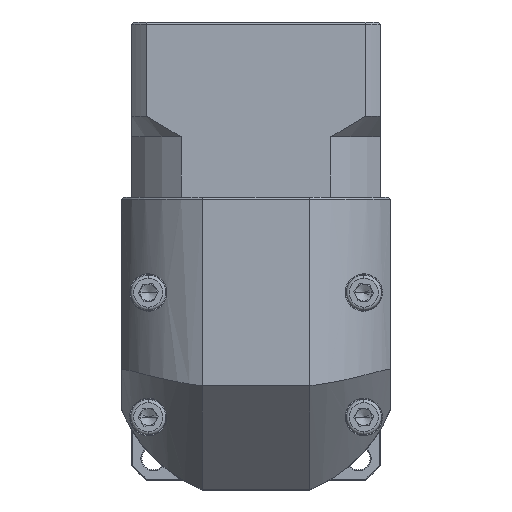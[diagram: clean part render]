
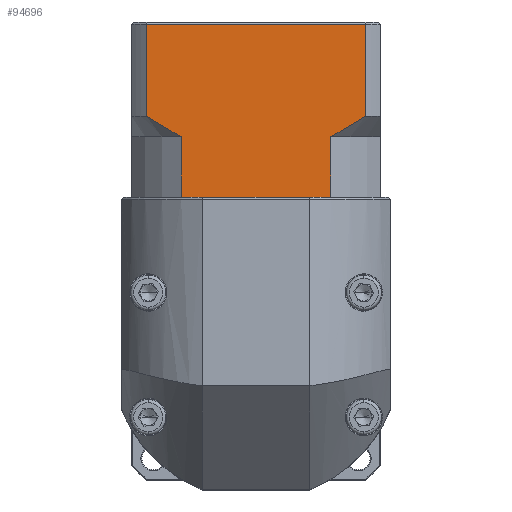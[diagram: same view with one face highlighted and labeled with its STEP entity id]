
A CAD part, top view. The second image highlights one B-rep face of the part: STEP entity #94696.
In plain terms, the highlighted planar face has unit normal (0, 0, 1).
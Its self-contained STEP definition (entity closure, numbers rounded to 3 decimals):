
#312 = DIRECTION ( 'NONE',  ( 1., 0., 0. ) ) ;
#1039 = CARTESIAN_POINT ( 'NONE',  ( -90.11, 39.774, 80.424 ) ) ;
#1424 = CARTESIAN_POINT ( 'NONE',  ( -98.54, 54.274, 80.424 ) ) ;
#3255 = VERTEX_POINT ( 'NONE', #77766 ) ;
#4260 = LINE ( 'NONE', #100759, #86115 ) ;
#6547 = VECTOR ( 'NONE', #8584, 1000. ) ;
#8584 = DIRECTION ( 'NONE',  ( 0., -1., 0. ) ) ;
#9825 = VECTOR ( 'NONE', #43654, 1000. ) ;
#10009 = ORIENTED_EDGE ( 'NONE', *, *, #15245, .T. ) ;
#10541 = FACE_OUTER_BOUND ( 'NONE', #26748, .T. ) ;
#13245 = VERTEX_POINT ( 'NONE', #42388 ) ;
#15245 = EDGE_CURVE ( 'NONE', #3255, #104483, #31555, .T. ) ;
#17055 = CARTESIAN_POINT ( 'NONE',  ( -89.119, 39.774, 80.424 ) ) ;
#17083 = CARTESIAN_POINT ( 'NONE',  ( -51.173, 55.825, 80.424 ) ) ;
#20121 = VERTEX_POINT ( 'NONE', #20446 ) ;
#20446 = CARTESIAN_POINT ( 'NONE',  ( -55.046, 39.774, 80.424 ) ) ;
#21475 = CARTESIAN_POINT ( 'NONE',  ( -97.18, 58.375, 80.424 ) ) ;
#21963 = LINE ( 'NONE', #105932, #56488 ) ;
#22116 = EDGE_CURVE ( 'NONE', #105021, #64540, #78569, .T. ) ;
#23376 = ORIENTED_EDGE ( 'NONE', *, *, #73919, .F. ) ;
#23925 = DIRECTION ( 'NONE',  ( 1., 0., 0. ) ) ;
#24281 = CARTESIAN_POINT ( 'NONE',  ( -102.082, 39.774, 80.424 ) ) ;
#24359 = CARTESIAN_POINT ( 'NONE',  ( -102.082, 39.774, 80.424 ) ) ;
#26748 = EDGE_LOOP ( 'NONE', ( #23376, #10009, #30204, #91913, #31964, #30813, #38494, #78426, #94059, #46248 ) ) ;
#28012 = CARTESIAN_POINT ( 'NONE',  ( -52.598, 55.025, 80.424 ) ) ;
#29648 = CARTESIAN_POINT ( 'NONE',  ( -91.562, 55.022, 80.424 ) ) ;
#30204 = ORIENTED_EDGE ( 'NONE', *, *, #46967, .F. ) ;
#30813 = ORIENTED_EDGE ( 'NONE', *, *, #22116, .T. ) ;
#31555 = LINE ( 'NONE', #100255, #9825 ) ;
#31964 = ORIENTED_EDGE ( 'NONE', *, *, #60363, .F. ) ;
#33458 = CARTESIAN_POINT ( 'NONE',  ( -48.367, 57.499, 80.424 ) ) ;
#36773 = LINE ( 'NONE', #24359, #104693 ) ;
#38380 = EDGE_CURVE ( 'NONE', #20121, #13245, #36773, .T. ) ;
#38494 = ORIENTED_EDGE ( 'NONE', *, *, #84819, .T. ) ;
#40001 = DIRECTION ( 'NONE',  ( 0., -1., 0. ) ) ;
#40776 = DIRECTION ( 'NONE',  ( 0., 1., 0. ) ) ;
#41734 = AXIS2_PLACEMENT_3D ( 'NONE', #81365, #55705, #104775 ) ;
#42388 = CARTESIAN_POINT ( 'NONE',  ( -54.055, 39.774, 80.424 ) ) ;
#43654 = DIRECTION ( 'NONE',  ( -1., 0., 0. ) ) ;
#43754 = LINE ( 'NONE', #1424, #60428 ) ;
#45903 = EDGE_CURVE ( 'NONE', #74908, #13245, #71818, .T. ) ;
#46248 = ORIENTED_EDGE ( 'NONE', *, *, #76578, .T. ) ;
#46967 = EDGE_CURVE ( 'NONE', #63742, #104483, #43754, .T. ) ;
#48387 = CARTESIAN_POINT ( 'NONE',  ( -54.055, 54.274, 80.424 ) ) ;
#49760 = CARTESIAN_POINT ( 'NONE',  ( -98.54, 59.274, 80.424 ) ) ;
#50270 = CARTESIAN_POINT ( 'NONE',  ( -46.988, 58.373, 80.424 ) ) ;
#55705 = DIRECTION ( 'NONE',  ( 0., 0., -1. ) ) ;
#56488 = VECTOR ( 'NONE', #74669, 1000. ) ;
#60363 = EDGE_CURVE ( 'NONE', #105021, #94860, #21963, .T. ) ;
#60428 = VECTOR ( 'NONE', #40776, 1000. ) ;
#60655 = DIRECTION ( 'NONE',  ( 1., 0., 0. ) ) ;
#63742 = VERTEX_POINT ( 'NONE', #49760 ) ;
#64540 = VERTEX_POINT ( 'NONE', #17055 ) ;
#71111 = CARTESIAN_POINT ( 'NONE',  ( -98.54, 59.274, 80.424 ) ) ;
#71818 = LINE ( 'NONE', #80068, #6547 ) ;
#73685 = B_SPLINE_CURVE_WITH_KNOTS ( 'NONE', 3,
 ( #71111, #21475, #78897, #78560, #29648, #103379 ),
 .UNSPECIFIED., .F., .F.,
 ( 4, 2, 4 ),
 ( 0.052, 0.057, 0.062 ),
 .UNSPECIFIED. ) ;
#73873 = CARTESIAN_POINT ( 'NONE',  ( -90.11, 54.274, 80.424 ) ) ;
#73919 = EDGE_CURVE ( 'NONE', #3255, #98708, #79099, .T. ) ;
#74224 = CARTESIAN_POINT ( 'NONE',  ( -54.055, 54.274, 80.424 ) ) ;
#74669 = DIRECTION ( 'NONE',  ( 0., 1., 0. ) ) ;
#74908 = VERTEX_POINT ( 'NONE', #48387 ) ;
#76578 = EDGE_CURVE ( 'NONE', #74908, #98708, #82839, .T. ) ;
#76685 = CARTESIAN_POINT ( 'NONE',  ( -98.54, 81.474, 80.424 ) ) ;
#77766 = CARTESIAN_POINT ( 'NONE',  ( -45.625, 81.474, 80.424 ) ) ;
#78426 = ORIENTED_EDGE ( 'NONE', *, *, #38380, .T. ) ;
#78560 = CARTESIAN_POINT ( 'NONE',  ( -92.994, 55.826, 80.424 ) ) ;
#78569 = LINE ( 'NONE', #24281, #95273 ) ;
#78897 = CARTESIAN_POINT ( 'NONE',  ( -95.801, 57.502, 80.424 ) ) ;
#79099 = LINE ( 'NONE', #97228, #90626 ) ;
#79945 = PLANE ( 'NONE',  #41734 ) ;
#80068 = CARTESIAN_POINT ( 'NONE',  ( -54.055, 54.274, 80.424 ) ) ;
#81365 = CARTESIAN_POINT ( 'NONE',  ( -102.082, 81.974, 80.424 ) ) ;
#82839 = B_SPLINE_CURVE_WITH_KNOTS ( 'NONE', 3,
 ( #74224, #28012, #17083, #33458, #50270, #85572 ),
 .UNSPECIFIED., .F., .F.,
 ( 4, 2, 4 ),
 ( 0.1, 0.104, 0.109 ),
 .UNSPECIFIED. ) ;
#84819 = EDGE_CURVE ( 'NONE', #64540, #20121, #4260, .T. ) ;
#85572 = CARTESIAN_POINT ( 'NONE',  ( -45.625, 59.274, 80.424 ) ) ;
#86115 = VECTOR ( 'NONE', #60655, 1000. ) ;
#89037 = EDGE_CURVE ( 'NONE', #63742, #94860, #73685, .T. ) ;
#90626 = VECTOR ( 'NONE', #40001, 1000. ) ;
#91913 = ORIENTED_EDGE ( 'NONE', *, *, #89037, .T. ) ;
#94059 = ORIENTED_EDGE ( 'NONE', *, *, #45903, .F. ) ;
#94696 = ADVANCED_FACE ( 'NONE', ( #10541 ), #79945, .F. ) ;
#94860 = VERTEX_POINT ( 'NONE', #73873 ) ;
#95273 = VECTOR ( 'NONE', #23925, 1000. ) ;
#97228 = CARTESIAN_POINT ( 'NONE',  ( -45.625, 54.274, 80.424 ) ) ;
#98708 = VERTEX_POINT ( 'NONE', #105270 ) ;
#100255 = CARTESIAN_POINT ( 'NONE',  ( -102.082, 81.474, 80.424 ) ) ;
#100759 = CARTESIAN_POINT ( 'NONE',  ( -102.082, 39.774, 80.424 ) ) ;
#103379 = CARTESIAN_POINT ( 'NONE',  ( -90.11, 54.274, 80.424 ) ) ;
#104483 = VERTEX_POINT ( 'NONE', #76685 ) ;
#104693 = VECTOR ( 'NONE', #312, 1000. ) ;
#104775 = DIRECTION ( 'NONE',  ( 0., 1., 0. ) ) ;
#105021 = VERTEX_POINT ( 'NONE', #1039 ) ;
#105270 = CARTESIAN_POINT ( 'NONE',  ( -45.625, 59.274, 80.424 ) ) ;
#105932 = CARTESIAN_POINT ( 'NONE',  ( -90.11, 54.274, 80.424 ) ) ;
